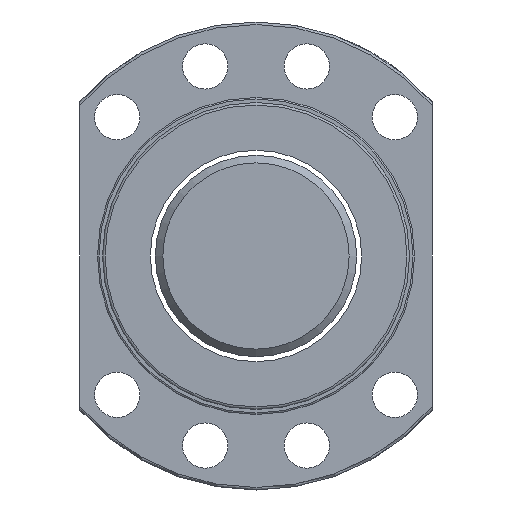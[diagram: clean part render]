
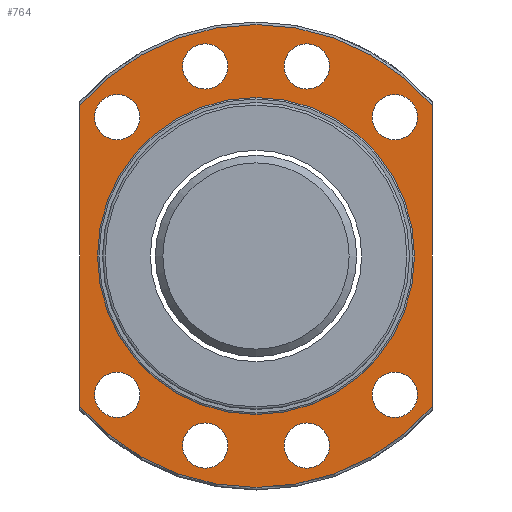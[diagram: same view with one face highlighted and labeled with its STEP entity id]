
A CAD part, left-side view. The second image highlights one B-rep face of the part: STEP entity #764.
In plain terms, the highlighted planar face has unit normal (-1, 0, 0).
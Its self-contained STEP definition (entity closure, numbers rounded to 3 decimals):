
#87=LINE('',#1286,#97);
#89=LINE('',#1319,#99);
#97=VECTOR('',#1013,1000.);
#99=VECTOR('',#1017,1000.);
#134=PLANE('',#885);
#226=ORIENTED_EDGE('',*,*,#361,.F.);
#227=ORIENTED_EDGE('',*,*,#363,.F.);
#228=ORIENTED_EDGE('',*,*,#365,.F.);
#229=ORIENTED_EDGE('',*,*,#367,.F.);
#230=ORIENTED_EDGE('',*,*,#369,.F.);
#231=ORIENTED_EDGE('',*,*,#371,.F.);
#232=ORIENTED_EDGE('',*,*,#373,.F.);
#233=ORIENTED_EDGE('',*,*,#375,.F.);
#234=ORIENTED_EDGE('',*,*,#377,.T.);
#235=ORIENTED_EDGE('',*,*,#350,.F.);
#236=ORIENTED_EDGE('',*,*,#380,.F.);
#237=ORIENTED_EDGE('',*,*,#357,.T.);
#238=ORIENTED_EDGE('',*,*,#381,.F.);
#350=EDGE_CURVE('',#434,#435,#87,.T.);
#357=EDGE_CURVE('',#440,#439,#89,.T.);
#361=EDGE_CURVE('',#443,#443,#492,.T.);
#363=EDGE_CURVE('',#445,#445,#494,.T.);
#365=EDGE_CURVE('',#447,#447,#496,.T.);
#367=EDGE_CURVE('',#449,#449,#498,.T.);
#369=EDGE_CURVE('',#451,#451,#500,.T.);
#371=EDGE_CURVE('',#453,#453,#502,.T.);
#373=EDGE_CURVE('',#455,#455,#504,.T.);
#375=EDGE_CURVE('',#457,#457,#506,.T.);
#377=EDGE_CURVE('',#459,#459,#508,.T.);
#380=EDGE_CURVE('',#440,#434,#510,.T.);
#381=EDGE_CURVE('',#435,#439,#511,.T.);
#434=VERTEX_POINT('',#1285);
#435=VERTEX_POINT('',#1287);
#439=VERTEX_POINT('',#1318);
#440=VERTEX_POINT('',#1320);
#443=VERTEX_POINT('',#1332);
#445=VERTEX_POINT('',#1337);
#447=VERTEX_POINT('',#1342);
#449=VERTEX_POINT('',#1347);
#451=VERTEX_POINT('',#1352);
#453=VERTEX_POINT('',#1357);
#455=VERTEX_POINT('',#1362);
#457=VERTEX_POINT('',#1367);
#459=VERTEX_POINT('',#1373);
#492=CIRCLE('',#857,4.5);
#494=CIRCLE('',#860,4.5);
#496=CIRCLE('',#863,4.5);
#498=CIRCLE('',#866,4.5);
#500=CIRCLE('',#869,4.5);
#502=CIRCLE('',#872,4.5);
#504=CIRCLE('',#875,4.5);
#506=CIRCLE('',#878,4.5);
#508=CIRCLE('',#882,31.5);
#510=CIRCLE('',#886,46.);
#511=CIRCLE('',#887,46.);
#580=EDGE_LOOP('',(#226));
#581=EDGE_LOOP('',(#227));
#582=EDGE_LOOP('',(#228));
#583=EDGE_LOOP('',(#229));
#584=EDGE_LOOP('',(#230));
#585=EDGE_LOOP('',(#231));
#586=EDGE_LOOP('',(#232));
#587=EDGE_LOOP('',(#233));
#588=EDGE_LOOP('',(#234));
#589=EDGE_LOOP('',(#235,#236,#237,#238));
#684=FACE_BOUND('',#580,.T.);
#685=FACE_BOUND('',#581,.T.);
#686=FACE_BOUND('',#582,.T.);
#687=FACE_BOUND('',#583,.T.);
#688=FACE_BOUND('',#584,.T.);
#689=FACE_BOUND('',#585,.T.);
#690=FACE_BOUND('',#586,.T.);
#691=FACE_BOUND('',#587,.T.);
#692=FACE_BOUND('',#588,.T.);
#693=FACE_BOUND('',#589,.T.);
#764=ADVANCED_FACE('',(#684,#685,#686,#687,#688,#689,#690,#691,#692,#693),
#134,.T.);
#857=AXIS2_PLACEMENT_3D('',#1331,#1023,#1024);
#860=AXIS2_PLACEMENT_3D('',#1336,#1029,#1030);
#863=AXIS2_PLACEMENT_3D('',#1341,#1035,#1036);
#866=AXIS2_PLACEMENT_3D('',#1346,#1041,#1042);
#869=AXIS2_PLACEMENT_3D('',#1351,#1047,#1048);
#872=AXIS2_PLACEMENT_3D('',#1356,#1053,#1054);
#875=AXIS2_PLACEMENT_3D('',#1361,#1059,#1060);
#878=AXIS2_PLACEMENT_3D('',#1366,#1065,#1066);
#882=AXIS2_PLACEMENT_3D('',#1372,#1073,#1074);
#885=AXIS2_PLACEMENT_3D('',#1382,#1079,#1080);
#886=AXIS2_PLACEMENT_3D('',#1383,#1081,#1082);
#887=AXIS2_PLACEMENT_3D('',#1384,#1083,#1084);
#1013=DIRECTION('',(0.,0.,1.));
#1017=DIRECTION('',(0.,0.,1.));
#1023=DIRECTION('',(-1.,0.,0.));
#1024=DIRECTION('',(0.,-1.,0.));
#1029=DIRECTION('',(-1.,0.,0.));
#1030=DIRECTION('',(0.,-1.,0.));
#1035=DIRECTION('',(-1.,0.,0.));
#1036=DIRECTION('',(0.,-1.,0.));
#1041=DIRECTION('',(-1.,0.,0.));
#1042=DIRECTION('',(0.,-1.,0.));
#1047=DIRECTION('',(-1.,0.,0.));
#1048=DIRECTION('',(0.,-1.,0.));
#1053=DIRECTION('',(-1.,0.,0.));
#1054=DIRECTION('',(0.,-1.,0.));
#1059=DIRECTION('',(-1.,0.,0.));
#1060=DIRECTION('',(0.,-1.,0.));
#1065=DIRECTION('',(-1.,0.,0.));
#1066=DIRECTION('',(0.,-1.,0.));
#1073=DIRECTION('',(1.,0.,0.));
#1074=DIRECTION('',(0.,1.,0.));
#1079=DIRECTION('',(-1.,0.,0.));
#1080=DIRECTION('',(0.,-1.,0.));
#1081=DIRECTION('',(1.,0.,0.));
#1082=DIRECTION('',(0.,1.,0.));
#1083=DIRECTION('',(1.,0.,0.));
#1084=DIRECTION('',(0.,1.,0.));
#1285=CARTESIAN_POINT('',(-30.,35.,-29.85));
#1286=CARTESIAN_POINT('',(-30.,35.,-60.002));
#1287=CARTESIAN_POINT('',(-30.,35.,29.85));
#1318=CARTESIAN_POINT('',(-30.,-35.,29.85));
#1319=CARTESIAN_POINT('',(-30.,-35.,-60.002));
#1320=CARTESIAN_POINT('',(-30.,-35.,-29.85));
#1331=CARTESIAN_POINT('',(-30.,27.577,-27.577));
#1332=CARTESIAN_POINT('',(-30.,23.077,-27.577));
#1336=CARTESIAN_POINT('',(-30.,-27.577,-27.577));
#1337=CARTESIAN_POINT('',(-30.,-32.077,-27.577));
#1341=CARTESIAN_POINT('',(-30.,27.577,27.577));
#1342=CARTESIAN_POINT('',(-30.,23.077,27.577));
#1346=CARTESIAN_POINT('',(-30.,-27.577,27.577));
#1347=CARTESIAN_POINT('',(-30.,-32.077,27.577));
#1351=CARTESIAN_POINT('',(-30.,10.094,-37.671));
#1352=CARTESIAN_POINT('',(-30.,5.594,-37.671));
#1356=CARTESIAN_POINT('',(-30.,-10.094,-37.671));
#1357=CARTESIAN_POINT('',(-30.,-14.594,-37.671));
#1361=CARTESIAN_POINT('',(-30.,-10.094,37.671));
#1362=CARTESIAN_POINT('',(-30.,-14.594,37.671));
#1366=CARTESIAN_POINT('',(-30.,10.094,37.671));
#1367=CARTESIAN_POINT('',(-30.,5.594,37.671));
#1372=CARTESIAN_POINT('',(-30.,0.,0.));
#1373=CARTESIAN_POINT('',(-30.,31.5,0.));
#1382=CARTESIAN_POINT('',(-30.,38.75,0.));
#1383=CARTESIAN_POINT('',(-30.,0.,0.));
#1384=CARTESIAN_POINT('',(-30.,0.,0.));
